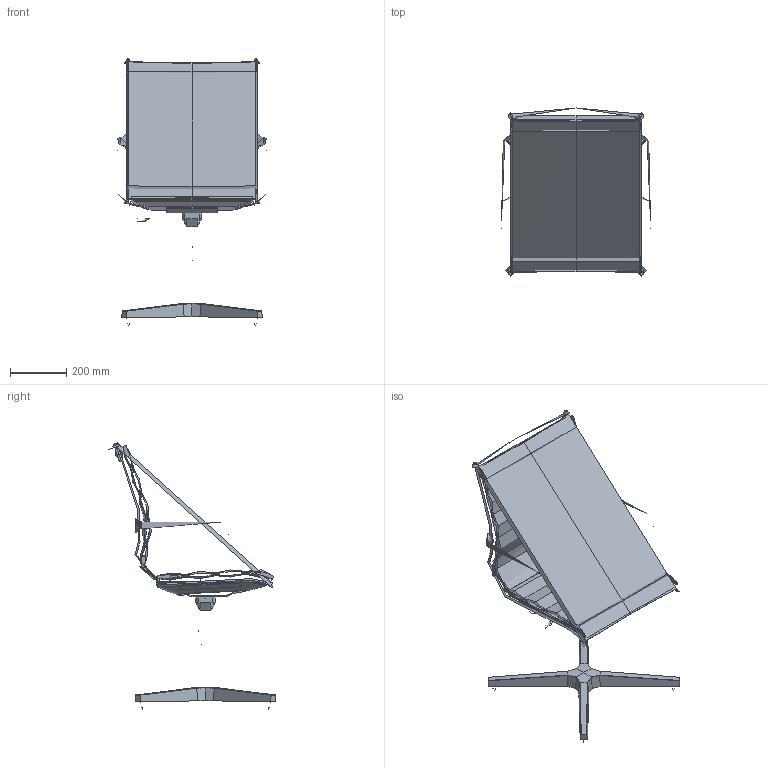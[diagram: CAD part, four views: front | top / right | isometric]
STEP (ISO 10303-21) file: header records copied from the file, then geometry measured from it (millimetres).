
FILE_DESCRIPTION(/* description */ (''),/* implementation_level */ '2;1');
FILE_NAME(/* name */ 'PL8B44~1',/* time_stamp */ '2018-04-10T15:24:08+02:00',/* author */ (''),/* organization */ (''),/* preprocessor_version */ 'ST-DEVELOPER v16.5',/* originating_system */ '',/* authorisation */ '');
FILE_SCHEMA (('AUTOMOTIVE_DESIGN'));
Length unit declared in the file: millimetre
Products named in the file (1): Document
Bounding box: 531.43 x 595.62 x 945.48 mm (x, y, z)
Volume: 15750280.2 mm3; surface area: 2662864.5 mm2
Topology: 18 solids, 45 shells, 656 faces, 1668 edges, 1058 vertices
Faces by surface type: bspline 569, plane 87
Entity records: 67247 total; most frequent: CARTESIAN_POINT 57104, ORIENTED_EDGE 3156, EDGE_CURVE 1661, B_SPLINE_CURVE_WITH_KNOTS 1381, VERTEX_POINT 1054, ADVANCED_FACE 656, FACE_OUTER_BOUND 656, EDGE_LOOP 656
